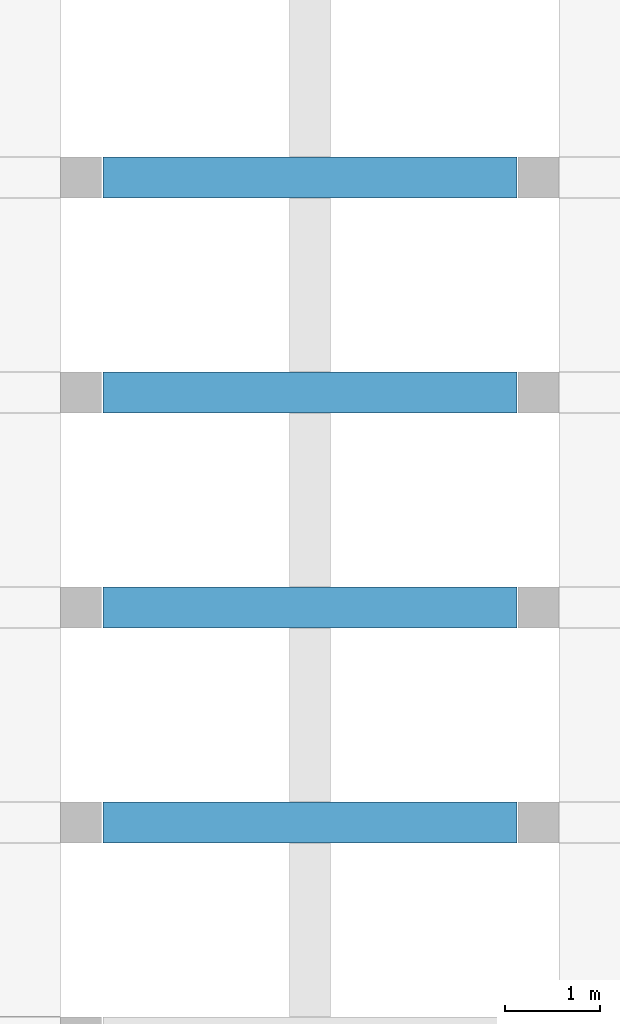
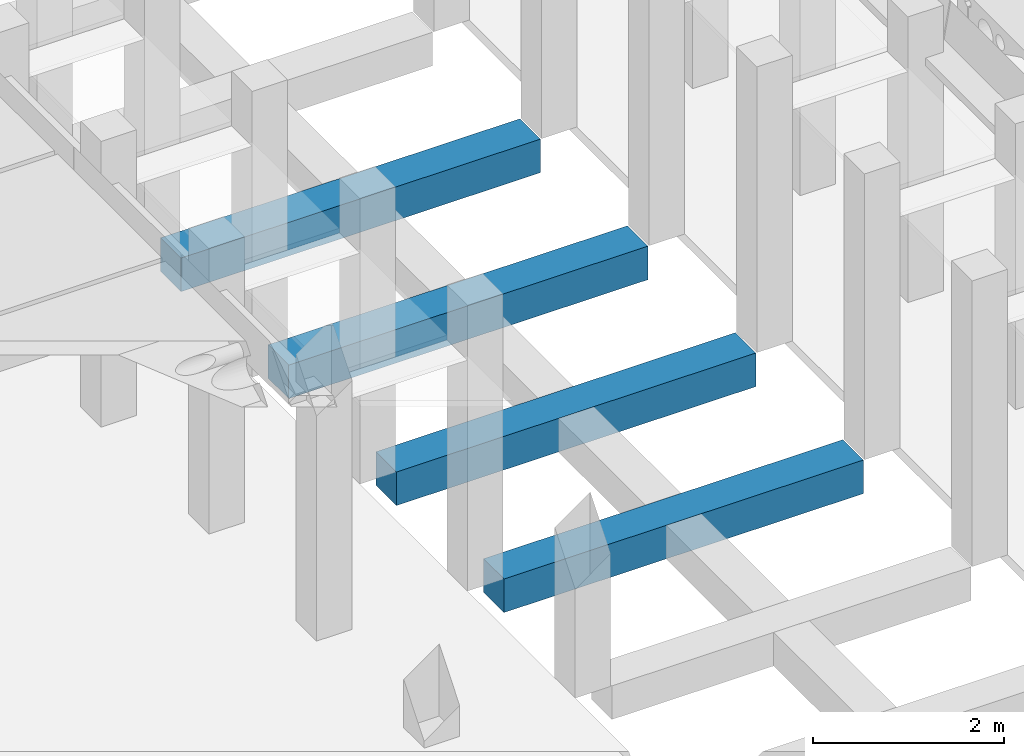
# One storey, part 10 of 18: 4 beams.
"""IFC2X3 building model written with IfcOpenShell, lengths in millimetres."""

from ifc_helpers import new_model, entity, si_unit, converted_unit, derived_unit, direction, frame, frame_2d, origin, place, context, subcontext, project, spatial, rectangle, extrude, material, type_object, element, save


model = new_model("IFC2X3")

# Units and contexts
model_context = context("Model", 3, precision=0.01, world=origin(), true_north=direction((6.12303176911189e-17, 1.0)))
body_context = subcontext(model_context, "Body", "Model", "MODEL_VIEW")
ifc_project = project(units=[si_unit("LENGTHUNIT", "METRE", prefix="MILLI"), si_unit("AREAUNIT", "SQUARE_METRE"), si_unit("VOLUMEUNIT", "CUBIC_METRE"), converted_unit("PLANEANGLEUNIT", "DEGREE", entity("IfcRatioMeasure", 0.0174532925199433), si_unit("PLANEANGLEUNIT", "RADIAN"), dimensions=[0, 0, 0, 0, 0, 0, 0]), si_unit("MASSUNIT", "GRAM", prefix="KILO"), derived_unit("MASSDENSITYUNIT", [(si_unit("MASSUNIT", "GRAM", prefix="KILO"), 1), (si_unit("LENGTHUNIT", "METRE"), -3)]), derived_unit("MOMENTOFINERTIAUNIT", [(si_unit("LENGTHUNIT", "METRE"), 4)]), si_unit("TIMEUNIT", "SECOND"), si_unit("FREQUENCYUNIT", "HERTZ"), si_unit("THERMODYNAMICTEMPERATUREUNIT", "DEGREE_CELSIUS"), derived_unit("THERMALTRANSMITTANCEUNIT", [(si_unit("MASSUNIT", "GRAM", prefix="KILO"), 1), (si_unit("THERMODYNAMICTEMPERATUREUNIT", "KELVIN"), -1), (si_unit("TIMEUNIT", "SECOND"), -3)]), derived_unit("VOLUMETRICFLOWRATEUNIT", [(si_unit("LENGTHUNIT", "METRE"), 3), (si_unit("TIMEUNIT", "SECOND"), -1)]), si_unit("ELECTRICCURRENTUNIT", "AMPERE"), si_unit("ELECTRICVOLTAGEUNIT", "VOLT"), si_unit("POWERUNIT", "WATT"), si_unit("FORCEUNIT", "NEWTON", prefix="KILO"), si_unit("ILLUMINANCEUNIT", "LUX"), si_unit("LUMINOUSFLUXUNIT", "LUMEN"), si_unit("LUMINOUSINTENSITYUNIT", "CANDELA"), derived_unit("USERDEFINED", [(si_unit("MASSUNIT", "GRAM", prefix="KILO"), -1), (si_unit("LENGTHUNIT", "METRE"), -2), (si_unit("TIMEUNIT", "SECOND"), 3), (si_unit("LUMINOUSFLUXUNIT", "LUMEN"), 1)]), derived_unit("LINEARVELOCITYUNIT", [(si_unit("LENGTHUNIT", "METRE"), 1), (si_unit("TIMEUNIT", "SECOND"), -1)]), si_unit("PRESSUREUNIT", "PASCAL"), derived_unit("USERDEFINED", [(si_unit("LENGTHUNIT", "METRE"), -2), (si_unit("MASSUNIT", "GRAM", prefix="KILO"), 1), (si_unit("TIMEUNIT", "SECOND"), -2)]), derived_unit("LINEARFORCEUNIT", [(si_unit("MASSUNIT", "GRAM", prefix="KILO"), 1), (si_unit("LENGTHUNIT", "METRE"), 1), (si_unit("TIMEUNIT", "SECOND"), -2), (si_unit("LENGTHUNIT", "METRE"), -1)]), derived_unit("PLANARFORCEUNIT", [(si_unit("MASSUNIT", "GRAM", prefix="KILO"), 1), (si_unit("LENGTHUNIT", "METRE"), 1), (si_unit("TIMEUNIT", "SECOND"), -2), (si_unit("LENGTHUNIT", "METRE"), -2)])], contexts=[model_context])

# Site, building, storey
site_placement = place(None, frame((10627.5135316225, 21939.0796949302, 0.0)))
site = spatial("IfcSite", under=ifc_project, at=site_placement, Name="Default", CompositionType="ELEMENT")
building_placement = place(site_placement, origin())
building = spatial("IfcBuilding", under=site, at=building_placement, CompositionType="ELEMENT")
storey_placement = place(building_placement, frame((0.0, 0.0, 3660.0)))
storey = spatial("IfcBuildingStorey", under=building, at=storey_placement, Name="R+1", CompositionType="ELEMENT", Elevation=3660.0)

# Beams
ifc_material = material(Name="Concrete, Precast Smooth, Light Grey")
beam_type = type_object("IfcBeamType", Name="M_Concrete-Rectangular Beam:400 x 800mm", PredefinedType="NOTDEFINED")
beam_1_placement = place(storey_placement, frame((24172.4864683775, 9700.92030506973, 0.0)))
element("IfcBeam", 1, at=beam_1_placement, inside=storey, type_object=beam_type, material=ifc_material, Name="M_Concrete-Rectangular Beam:400 x 800mm", ObjectType="M_Concrete-Rectangular Beam:400 x 800mm", context=body_context, shape_type="SweptSolid", body=[
    extrude(rectangle(XDim=430.0, YDim=430.000000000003, at=frame_2d((0.0, 1.35287336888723e-11), x_axis=(1.0, 0.0))), frame((227.700000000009, 0.0, -215.0), z_axis=(1.0, 0.0, 0.0), x_axis=(0.0, 0.0, -1.0)), (0.0, 0.0, 1.0), 4354.59999999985),
])
beam_2_placement = place(storey_placement, frame((24172.4864683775, 7440.92030506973, 0.0)))
element("IfcBeam", 2, at=beam_2_placement, inside=storey, type_object=beam_type, material=ifc_material, Name="M_Concrete-Rectangular Beam:400 x 800mm", ObjectType="M_Concrete-Rectangular Beam:400 x 800mm", context=body_context, shape_type="SweptSolid", body=[
    extrude(rectangle(XDim=430.0, YDim=430.000000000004, at=frame_2d((0.0, 1.30029320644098e-11), x_axis=(1.0, 0.0))), frame((227.700000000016, 0.0, -215.0), z_axis=(1.0, 0.0, 0.0), x_axis=(0.0, 0.0, -1.0)), (0.0, 0.0, 1.0), 4354.59999999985),
])
beam_3_placement = place(storey_placement, frame((24172.4864683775, 5180.92030506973, 0.0)))
element("IfcBeam", 3, at=beam_3_placement, inside=storey, type_object=beam_type, material=ifc_material, Name="M_Concrete-Rectangular Beam:400 x 800mm", ObjectType="M_Concrete-Rectangular Beam:400 x 800mm", context=body_context, shape_type="SweptSolid", body=[
    extrude(rectangle(XDim=430.0, YDim=430.000000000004, at=frame_2d((0.0, 1.40829570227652e-11), x_axis=(1.0, 0.0))), frame((227.700000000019, 0.0, -215.0), z_axis=(1.0, 0.0, 0.0), x_axis=(0.0, 0.0, -1.0)), (0.0, 0.0, 1.0), 4354.59999999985),
])
beam_4_placement = place(storey_placement, frame((24172.4864683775, 2920.92030506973, 0.0)))
element("IfcBeam", 4, at=beam_4_placement, inside=storey, type_object=beam_type, material=ifc_material, Name="M_Concrete-Rectangular Beam:400 x 800mm", ObjectType="M_Concrete-Rectangular Beam:400 x 800mm", context=body_context, shape_type="SweptSolid", body=[
    extrude(rectangle(XDim=430.0, YDim=430.000000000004, at=frame_2d((0.0, 1.40829570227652e-11), x_axis=(1.0, 0.0))), frame((227.700000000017, 0.0, -215.0), z_axis=(1.0, 0.0, 0.0), x_axis=(0.0, 0.0, -1.0)), (0.0, 0.0, 1.0), 4354.59999999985),
])

save(model, "model.ifc")
